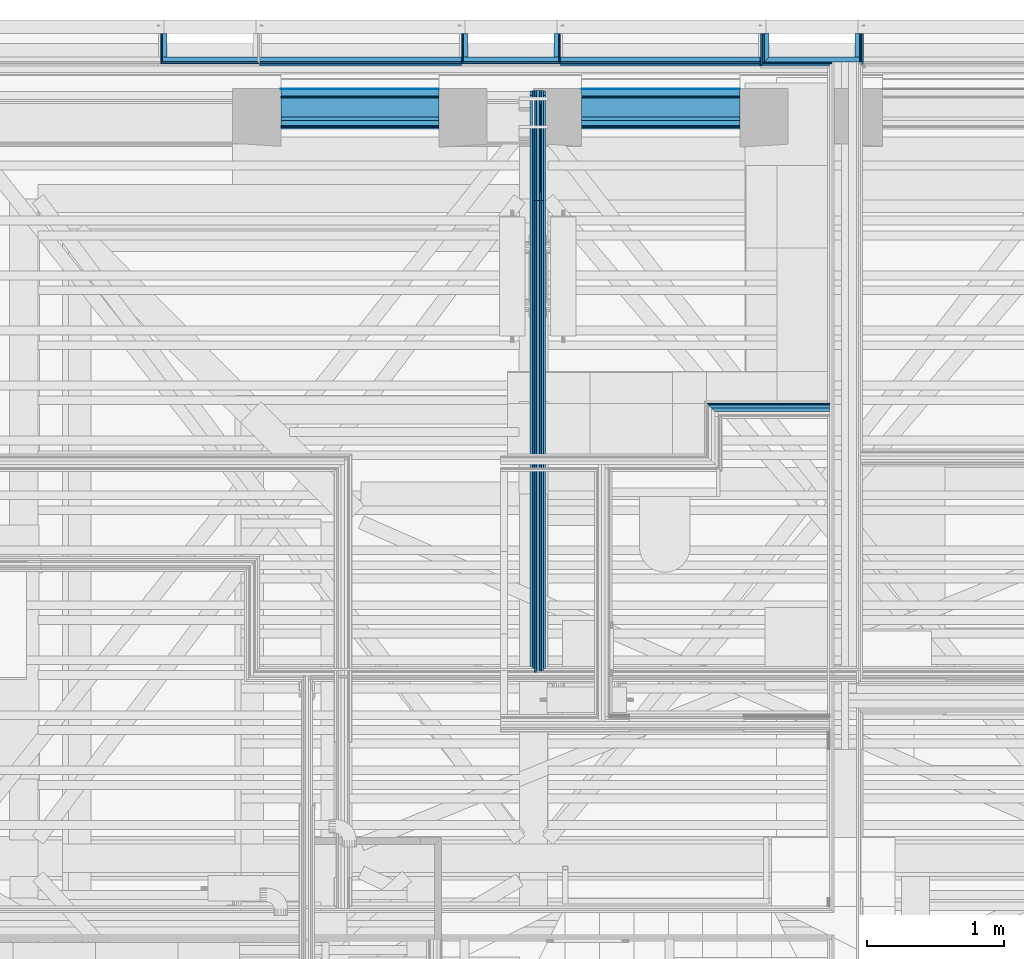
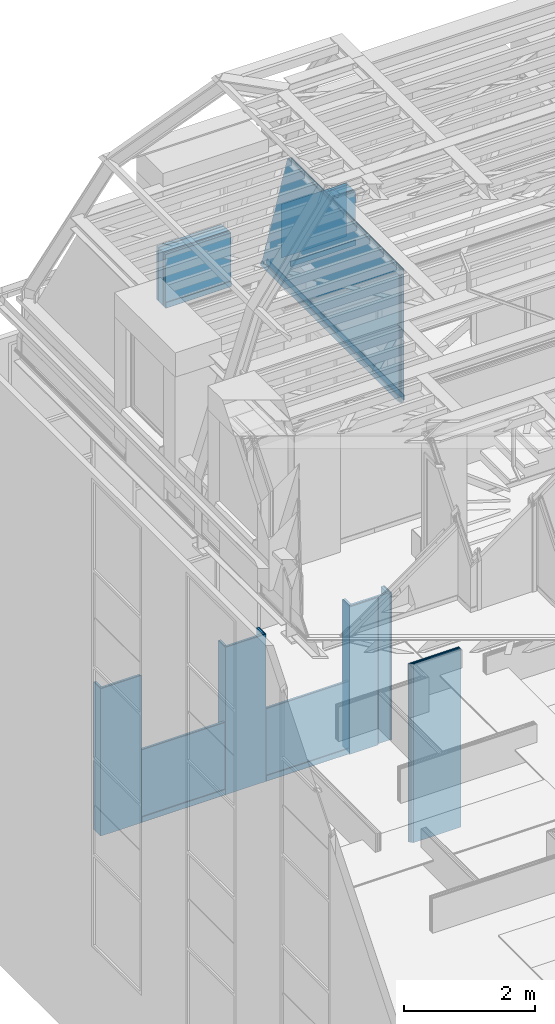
# One storey, part 40 of 183: 51 building element parts, 14 elements without a shape of their own.
"""IFC2X3 building model written with IfcOpenShell, lengths in metres."""

from ifc_helpers import new_model, entity, si_unit, converted_unit, derived_unit, money_unit, direction, frame, frame_2d, origin_with_axes, place, context, subcontext, project, spatial, polyline, rectangle, outline, extrude, clip, halfspace, material, type_object, element, aggregate, save


model = new_model("IFC2X3")

# Units and contexts
model_context = context("Model", 3, precision=1e-05, world=origin_with_axes(), true_north=direction((0.0, 1.0)))
body_context = subcontext(model_context, "Body", "Model", "MODEL_VIEW", scale=1.0)
ifc_project = project(units=[si_unit("LENGTHUNIT", "METRE"), si_unit("AREAUNIT", "SQUARE_METRE"), si_unit("VOLUMEUNIT", "CUBIC_METRE"), si_unit("ABSORBEDDOSEUNIT", "GRAY"), si_unit("AMOUNTOFSUBSTANCEUNIT", "MOLE"), si_unit("DOSEEQUIVALENTUNIT", "SIEVERT"), si_unit("ELECTRICCAPACITANCEUNIT", "FARAD"), si_unit("ELECTRICCHARGEUNIT", "COULOMB"), si_unit("ELECTRICCONDUCTANCEUNIT", "SIEMENS"), si_unit("ELECTRICCURRENTUNIT", "AMPERE"), si_unit("ELECTRICRESISTANCEUNIT", "OHM"), si_unit("ELECTRICVOLTAGEUNIT", "VOLT"), si_unit("ENERGYUNIT", "JOULE"), si_unit("FORCEUNIT", "NEWTON"), si_unit("FREQUENCYUNIT", "HERTZ"), si_unit("ILLUMINANCEUNIT", "LUX"), si_unit("INDUCTANCEUNIT", "HENRY"), si_unit("LUMINOUSFLUXUNIT", "LUMEN"), si_unit("LUMINOUSINTENSITYUNIT", "CANDELA"), si_unit("MAGNETICFLUXDENSITYUNIT", "TESLA"), si_unit("MAGNETICFLUXUNIT", "WEBER"), si_unit("MASSUNIT", "GRAM"), converted_unit("PLANEANGLEUNIT", "degree", entity("IfcReal", 0.0174532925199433), si_unit("PLANEANGLEUNIT", "RADIAN"), dimensions=[0, 0, 0, 0, 0, 0, 0]), si_unit("POWERUNIT", "WATT"), si_unit("PRESSUREUNIT", "PASCAL"), si_unit("RADIOACTIVITYUNIT", "BECQUEREL"), si_unit("SOLIDANGLEUNIT", "STERADIAN"), si_unit("THERMODYNAMICTEMPERATUREUNIT", "KELVIN"), si_unit("TIMEUNIT", "SECOND"), derived_unit("ACCELERATIONUNIT", [(si_unit("LENGTHUNIT", "METRE"), 1), (si_unit("TIMEUNIT", "SECOND"), -2)]), derived_unit("ANGULARVELOCITYUNIT", [(converted_unit("PLANEANGLEUNIT", "degree", entity("IfcReal", 0.0174532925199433), si_unit("PLANEANGLEUNIT", "RADIAN"), dimensions=[0, 0, 0, 0, 0, 0, 0]), 1), (si_unit("TIMEUNIT", "SECOND"), -1)]), derived_unit("CURVATUREUNIT", [(converted_unit("PLANEANGLEUNIT", "degree", entity("IfcReal", 0.0174532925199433), si_unit("PLANEANGLEUNIT", "RADIAN"), dimensions=[0, 0, 0, 0, 0, 0, 0]), 1), (si_unit("LENGTHUNIT", "METRE"), -1)]), derived_unit("DYNAMICVISCOSITYUNIT", [(si_unit("PRESSUREUNIT", "PASCAL"), 1), (si_unit("TIMEUNIT", "SECOND"), 1)]), derived_unit("HEATFLUXDENSITYUNIT", [(si_unit("POWERUNIT", "WATT"), 1), (si_unit("LENGTHUNIT", "METRE"), -2)]), derived_unit("HEATINGVALUEUNIT", [(si_unit("ENERGYUNIT", "JOULE"), 1), (si_unit("MASSUNIT", "GRAM"), -1)]), derived_unit("INTEGERCOUNTRATEUNIT", [(si_unit("TIMEUNIT", "SECOND"), -1)]), derived_unit("IONCONCENTRATIONUNIT", [(si_unit("MASSUNIT", "GRAM"), 1), (si_unit("VOLUMEUNIT", "CUBIC_METRE"), -1)]), derived_unit("ISOTHERMALMOISTURECAPACITYUNIT", [(si_unit("VOLUMEUNIT", "CUBIC_METRE"), 1), (si_unit("MASSUNIT", "GRAM"), -1)]), derived_unit("KINEMATICVISCOSITYUNIT", [(si_unit("AREAUNIT", "SQUARE_METRE"), 1), (si_unit("TIMEUNIT", "SECOND"), -1)]), derived_unit("LINEARFORCEUNIT", [(si_unit("FORCEUNIT", "NEWTON"), 1), (si_unit("LENGTHUNIT", "METRE"), -1)]), derived_unit("LINEARMOMENTUNIT", [(si_unit("FORCEUNIT", "NEWTON"), 1), (si_unit("LENGTHUNIT", "METRE"), -1)]), derived_unit("LINEARSTIFFNESSUNIT", [(si_unit("FORCEUNIT", "NEWTON"), 1), (si_unit("LENGTHUNIT", "METRE"), -1)]), derived_unit("LINEARVELOCITYUNIT", [(si_unit("LENGTHUNIT", "METRE"), 1), (si_unit("TIMEUNIT", "SECOND"), -1)]), derived_unit("LUMINOUSINTENSITYDISTRIBUTIONUNIT", [(si_unit("LUMINOUSINTENSITYUNIT", "CANDELA"), 1), (si_unit("LUMINOUSFLUXUNIT", "LUMEN"), -1)]), derived_unit("MASSDENSITYUNIT", [(si_unit("MASSUNIT", "GRAM"), 1), (si_unit("VOLUMEUNIT", "CUBIC_METRE"), -1)]), derived_unit("MASSFLOWRATEUNIT", [(si_unit("MASSUNIT", "GRAM"), 1), (si_unit("TIMEUNIT", "SECOND"), -1)]), derived_unit("MASSPERLENGTHUNIT", [(si_unit("MASSUNIT", "GRAM"), 1), (si_unit("LENGTHUNIT", "METRE"), -1)]), derived_unit("MODULUSOFELASTICITYUNIT", [(si_unit("FORCEUNIT", "NEWTON"), 1), (si_unit("AREAUNIT", "SQUARE_METRE"), -1)]), derived_unit("MODULUSOFLINEARSUBGRADEREACTIONUNIT", [(si_unit("FORCEUNIT", "NEWTON"), 1), (si_unit("LENGTHUNIT", "METRE"), -2)]), derived_unit("MODULUSOFROTATIONALSUBGRADEREACTIONUNIT", [(si_unit("FORCEUNIT", "NEWTON"), 1), (si_unit("LENGTHUNIT", "METRE"), 1)]), derived_unit("MODULUSOFSUBGRADEREACTIONUNIT", [(si_unit("FORCEUNIT", "NEWTON"), 1), (si_unit("VOLUMEUNIT", "CUBIC_METRE"), -1)]), derived_unit("MOISTUREDIFFUSIVITYUNIT", [(si_unit("VOLUMEUNIT", "CUBIC_METRE"), 1), (si_unit("TIMEUNIT", "SECOND"), -1)]), derived_unit("MOLECULARWEIGHTUNIT", [(si_unit("MASSUNIT", "GRAM"), 1), (si_unit("AMOUNTOFSUBSTANCEUNIT", "MOLE"), -1)]), derived_unit("PLANARFORCEUNIT", [(si_unit("FORCEUNIT", "NEWTON"), 1), (si_unit("LENGTHUNIT", "METRE"), -2)]), derived_unit("ROTATIONALFREQUENCYUNIT", [(si_unit("TIMEUNIT", "SECOND"), -1)]), derived_unit("ROTATIONALMASSUNIT", [(si_unit("MASSUNIT", "GRAM"), 1), (si_unit("LENGTHUNIT", "METRE"), 2)]), derived_unit("ROTATIONALSTIFFNESSUNIT", [(si_unit("FORCEUNIT", "NEWTON"), 1), (si_unit("LENGTHUNIT", "METRE"), 1), (converted_unit("PLANEANGLEUNIT", "degree", entity("IfcReal", 0.0174532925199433), si_unit("PLANEANGLEUNIT", "RADIAN"), dimensions=[0, 0, 0, 0, 0, 0, 0]), -1)]), derived_unit("SECTIONAREAINTEGRALUNIT", [(si_unit("LENGTHUNIT", "METRE"), 5)]), derived_unit("SECTIONMODULUSUNIT", [(si_unit("LENGTHUNIT", "METRE"), 3)]), derived_unit("SHEARMODULUSUNIT", [(si_unit("FORCEUNIT", "NEWTON"), 1), (si_unit("AREAUNIT", "SQUARE_METRE"), -1)]), derived_unit("SOUNDPOWERUNIT", [(si_unit("ENERGYUNIT", "JOULE"), 1), (si_unit("TIMEUNIT", "SECOND"), -1)]), derived_unit("SPECIFICHEATCAPACITYUNIT", [(si_unit("FORCEUNIT", "NEWTON"), 1), (si_unit("MASSUNIT", "GRAM"), -1), (si_unit("THERMODYNAMICTEMPERATUREUNIT", "KELVIN"), -1)]), derived_unit("TEMPERATUREGRADIENTUNIT", [(si_unit("THERMODYNAMICTEMPERATUREUNIT", "KELVIN"), 1), (si_unit("LENGTHUNIT", "METRE"), -1)]), derived_unit("THERMALADMITTANCEUNIT", [(si_unit("POWERUNIT", "WATT"), 1), (si_unit("AREAUNIT", "SQUARE_METRE"), -1), (si_unit("THERMODYNAMICTEMPERATUREUNIT", "KELVIN"), -1)]), derived_unit("THERMALCONDUCTANCEUNIT", [(si_unit("POWERUNIT", "WATT"), 1), (si_unit("LENGTHUNIT", "METRE"), -1), (si_unit("THERMODYNAMICTEMPERATUREUNIT", "KELVIN"), -1)]), derived_unit("THERMALEXPANSIONCOEFFICIENTUNIT", [(si_unit("THERMODYNAMICTEMPERATUREUNIT", "KELVIN"), -1)]), derived_unit("THERMALRESISTANCEUNIT", [(si_unit("AREAUNIT", "SQUARE_METRE"), 1), (si_unit("POWERUNIT", "WATT"), -1)]), derived_unit("THERMALTRANSMITTANCEUNIT", [(si_unit("POWERUNIT", "WATT"), 1), (si_unit("AREAUNIT", "SQUARE_METRE"), -1), (si_unit("THERMODYNAMICTEMPERATUREUNIT", "KELVIN"), -1)]), derived_unit("TORQUEUNIT", [(si_unit("FORCEUNIT", "NEWTON"), 1), (si_unit("LENGTHUNIT", "METRE"), 1)]), derived_unit("VAPORPERMEABILITYUNIT", [(si_unit("MASSUNIT", "GRAM"), 1), (si_unit("TIMEUNIT", "SECOND"), -1)]), derived_unit("VOLUMETRICFLOWRATEUNIT", [(si_unit("VOLUMEUNIT", "CUBIC_METRE"), 1), (si_unit("TIMEUNIT", "SECOND"), -1)]), derived_unit("WARPINGCONSTANTUNIT", [(si_unit("LENGTHUNIT", "METRE"), 6)]), derived_unit("WARPINGMOMENTUNIT", [(si_unit("FORCEUNIT", "NEWTON"), 1), (si_unit("LENGTHUNIT", "METRE"), 2)]), money_unit("GBP")], contexts=[model_context])

# Site, building, storey
site_placement = place(None, origin_with_axes())
site = spatial("IfcSite", under=ifc_project, at=site_placement, Name="Site", CompositionType="ELEMENT")
building_placement = place(site_placement, origin_with_axes())
building = spatial("IfcBuilding", under=site, at=building_placement, Name="Building01", CompositionType="ELEMENT")
storey_placement = place(building_placement, frame((0.0, 0.0, 5.15), z_axis=(0.0, 0.0, 1.0), x_axis=(1.0, 0.0, 0.0)))
storey = spatial("IfcBuildingStorey", under=building, at=storey_placement, Name="1F", CompositionType="ELEMENT", Elevation=5.15)

# Wall, building element parts
wall_type_1 = type_object("IfcWallType", Name="SHE_A-Walls_Type05a_Partition_95mm_tall", PredefinedType="NOTDEFINED")
wall_1_placement = place(storey_placement, frame((6.229669, 12.05067, 0.0), z_axis=(0.0, 0.0, 1.0), x_axis=(1.0, 0.0, 0.0)))
wall_1 = element("IfcWall", 1, at=wall_1_placement, inside=storey, type_object=wall_type_1, Name="5A", ObjectType="SHE_A-Walls_Type05a_Partition_95mm_tall")
ifc_material_1 = material(Name="A_BSUK_Insulation")
placement_1 = place(wall_1_placement, origin_with_axes())
building_element_part_1 = element("IfcBuildingElementPart", 2, at=placement_1, material=ifc_material_1, Name="4", context=body_context, shape_type="SweptSolid", body=[
    extrude(outline(polyline([(0.835, 0.025), (-0.025, 0.025), (0.0, 0.0), (0.835, 0.0), (0.835, 0.025)])), origin_with_axes(), (0.0, 0.0, 1.0), 3.32),
])
ifc_material_2 = material(Name="Air Cavity")
building_element_part_2 = element("IfcBuildingElementPart", 3, at=placement_1, material=ifc_material_2, Name="5", context=body_context, shape_type="SweptSolid", body=[
    extrude(outline(polyline([(0.835, 0.048), (-0.048, 0.048), (-0.025, 0.025), (0.835, 0.025), (0.835, 0.048)])), origin_with_axes(), (0.0, 0.0, 1.0), 3.32),
])
ifc_material_3 = material(Name="A_BSUK_WallInternal_Finishes_Plasterboard")
building_element_part_3 = element("IfcBuildingElementPart", 4, at=placement_1, material=ifc_material_3, Name="6", context=body_context, shape_type="SweptSolid", body=[
    extrude(outline(polyline([(0.835, 0.06), (-0.06, 0.06), (-0.048, 0.048), (0.835, 0.048), (0.835, 0.06)])), origin_with_axes(), (0.0, 0.0, 1.0), 3.32),
])
aggregate(wall_1, [building_element_part_1, building_element_part_2, building_element_part_3])

wall_type_2 = type_object("IfcWallType", Name="SHE_A-Walls_Type06f_ExternalWallInsulation_48+15mm", PredefinedType="NOTDEFINED")
wall_2_placement = place(storey_placement, frame((7.265, 14.8, 0.0), z_axis=(0.0, 0.0, 1.0), x_axis=(0.0, -1.0, 0.0)))
wall_2 = element("IfcWall", 5, at=wall_2_placement, inside=storey, type_object=wall_type_2, Name="6F", ObjectType="SHE_A-Walls_Type06f_ExternalWallInsulation_48+15mm")
placement_2 = place(wall_2_placement, origin_with_axes())
building_element_part_4 = element("IfcBuildingElementPart", 6, at=placement_2, material=ifc_material_1, Name="1", context=body_context, shape_type="SweptSolid", body=[
    extrude(rectangle(XDim=0.17, YDim=0.036, at=frame_2d((0.085, 0.0), x_axis=(-1.0, 0.0))), origin_with_axes(), (0.0, 0.0, 1.0), 2.74),
])
building_element_part_5 = element("IfcBuildingElementPart", 7, at=placement_2, material=ifc_material_3, Name="2", context=body_context, shape_type="SweptSolid", body=[
    extrude(rectangle(XDim=0.206, YDim=0.012, at=frame_2d((0.103, 0.024), x_axis=(-1.0, 0.0))), origin_with_axes(), (0.0, 0.0, 1.0), 2.74),
])
building_element_part_6 = element("IfcBuildingElementPart", 8, at=placement_2, material=ifc_material_3, Name="3", context=body_context, shape_type="SweptSolid", body=[
    extrude(outline(polyline([(0.233, 0.045), (0.0, 0.045), (0.0, 0.03), (0.218, 0.03), (0.233, 0.045)])), origin_with_axes(), (0.0, 0.0, 1.0), 2.74),
])
aggregate(wall_2, [building_element_part_4, building_element_part_5, building_element_part_6])

wall_3_placement = place(storey_placement, frame((6.605, 14.612, 0.0), z_axis=(0.0, 0.0, 1.0), x_axis=(0.0, 1.0, 0.0)))
wall_3 = element("IfcWall", 9, at=wall_3_placement, inside=storey, type_object=wall_type_2, Name="6F", ObjectType="SHE_A-Walls_Type06f_ExternalWallInsulation_48+15mm")
placement_3 = place(wall_3_placement, origin_with_axes())
building_element_part_7 = element("IfcBuildingElementPart", 10, at=placement_3, material=ifc_material_1, Name="1", context=body_context, shape_type="SweptSolid", body=[
    extrude(outline(polyline([(-0.018, 0.018), (0.018, -0.018), (0.188, -0.018), (0.188, 0.018), (-0.018, 0.018)])), origin_with_axes(), (0.0, 0.0, 1.0), 2.74),
])
building_element_part_8 = element("IfcBuildingElementPart", 11, at=placement_3, material=ifc_material_3, Name="2", context=body_context, shape_type="SweptSolid", body=[
    extrude(outline(polyline([(-0.03, 0.03), (-0.018, 0.018), (0.188, 0.018), (0.188, 0.03), (-0.03, 0.03)])), origin_with_axes(), (0.0, 0.0, 1.0), 2.74),
])
building_element_part_9 = element("IfcBuildingElementPart", 12, at=placement_3, material=ifc_material_3, Name="3", context=body_context, shape_type="SweptSolid", body=[
    extrude(outline(polyline([(-0.045, 0.045), (-0.03, 0.03), (0.188, 0.03), (0.188, 0.045), (-0.045, 0.045)])), origin_with_axes(), (0.0, 0.0, 1.0), 2.74),
])
aggregate(wall_3, [building_element_part_7, building_element_part_8, building_element_part_9])

wall_4_placement = place(storey_placement, frame((7.283, 14.612, 0.0), z_axis=(0.0, 0.0, 1.0), x_axis=(-1.0, 0.0, 0.0)))
wall_4 = element("IfcWall", 13, at=wall_4_placement, inside=storey, type_object=wall_type_2, Name="6F", ObjectType="SHE_A-Walls_Type06f_ExternalWallInsulation_48+15mm")
placement_4 = place(wall_4_placement, origin_with_axes())
building_element_part_10 = element("IfcBuildingElementPart", 14, at=placement_4, material=ifc_material_1, Name="1", context=body_context, shape_type="SweptSolid", body=[
    extrude(outline(polyline([(0.696, 0.018), (0.0, 0.018), (0.0, -0.018), (0.66, -0.018), (0.696, 0.018)])), origin_with_axes(), (0.0, 0.0, 1.0), 2.74),
])
building_element_part_11 = element("IfcBuildingElementPart", 15, at=placement_4, material=ifc_material_3, Name="2", context=body_context, shape_type="SweptSolid", body=[
    extrude(outline(polyline([(0.708, 0.03), (0.203331, 0.03), (0.203331, 0.018), (0.696, 0.018), (0.708, 0.03)])), origin_with_axes(), (0.0, 0.0, 1.0), 2.74),
])
building_element_part_12 = element("IfcBuildingElementPart", 16, at=placement_4, material=ifc_material_3, Name="5", context=body_context, shape_type="SweptSolid", body=[
    extrude(outline(polyline([(0.723, 0.045), (0.218331, 0.045), (0.218331, 0.03), (0.708, 0.03), (0.723, 0.045)])), origin_with_axes(), (0.0, 0.0, 1.0), 2.74),
])
aggregate(wall_4, [building_element_part_10, building_element_part_11, building_element_part_12])

wall_type_3 = type_object("IfcWallType", Name="SHE_A-Walls_Type06d_ExternalWallInsulation_48mm", PredefinedType="NOTDEFINED")
wall_5_placement = place(storey_placement, frame((6.559876, 14.594, 0.0), z_axis=(0.0, 0.0, 1.0), x_axis=(-1.0, 0.0, 0.0)))
wall_5 = element("IfcWall", 17, at=wall_5_placement, inside=storey, type_object=wall_type_3, Name="6D", ObjectType="SHE_A-Walls_Type06d_ExternalWallInsulation_48mm")
placement_5 = place(wall_5_placement, origin_with_axes())
building_element_part_13 = element("IfcBuildingElementPart", 18, at=placement_5, material=ifc_material_1, Name="1", context=body_context, shape_type="SweptSolid", body=[
    extrude(rectangle(XDim=1.454876, YDim=0.036, at=frame_2d((0.727438, -0.018), x_axis=(-1.0, 0.0))), origin_with_axes(), (0.0, 0.0, 1.0), 1.35),
])
building_element_part_14 = element("IfcBuildingElementPart", 19, at=placement_5, material=ifc_material_3, Name="2", context=body_context, shape_type="SweptSolid", body=[
    extrude(rectangle(XDim=1.454876, YDim=0.013, at=frame_2d((0.727438, 0.0055), x_axis=(-1.0, 0.0))), origin_with_axes(), (0.0, 0.0, 1.0), 1.35),
])
ifc_material_4 = material(Name="A_BSUK_Walls_Timber")
building_element_part_15 = element("IfcBuildingElementPart", 20, at=placement_5, material=ifc_material_4, Name="3", context=body_context, shape_type="SweptSolid", body=[
    extrude(rectangle(XDim=1.454876, YDim=0.015, at=frame_2d((0.727438, 0.0195), x_axis=(-1.0, 0.0))), frame((0.0, 0.0, 0.015), z_axis=(0.0, 0.0, 1.0), x_axis=(1.0, 0.0, 0.0)), (0.0, 0.0, 1.0), 0.1),
])
aggregate(wall_5, [building_element_part_13, building_element_part_14, building_element_part_15])

wall_6_placement = place(storey_placement, frame((5.093, 14.63, 0.0), z_axis=(0.0, 0.0, 1.0), x_axis=(0.0, 1.0, 0.0)))
wall_6 = element("IfcWall", 21, at=wall_6_placement, inside=storey, type_object=wall_type_3, Name="6D", ObjectType="SHE_A-Walls_Type06d_ExternalWallInsulation_48mm")
placement_6 = place(wall_6_placement, origin_with_axes())
building_element_part_16 = element("IfcBuildingElementPart", 22, at=placement_6, material=ifc_material_3, Name="2", context=body_context, shape_type="SweptSolid", body=[
    extrude(outline(polyline([(-0.035, 0.001), (-0.048, -0.012), (0.17, -0.012), (0.17, 0.001), (-0.035, 0.001)])), origin_with_axes(), (0.0, 0.0, 1.0), 2.74),
])
building_element_part_17 = element("IfcBuildingElementPart", 23, at=placement_6, material=ifc_material_1, Name="3", context=body_context, shape_type="SweptSolid", body=[
    extrude(rectangle(XDim=0.036, YDim=0.17, at=frame_2d((0.085, 0.018), x_axis=(0.0, -1.0))), origin_with_axes(), (0.0, 0.0, 1.0), 2.74),
])
aggregate(wall_6, [building_element_part_16, building_element_part_17])

wall_7_placement = place(storey_placement, frame((5.093, 14.63, 0.0), z_axis=(0.0, 0.0, 1.0), x_axis=(-1.0, 0.0, 0.0)))
wall_7 = element("IfcWall", 24, at=wall_7_placement, inside=storey, type_object=wall_type_3, Name="6D", ObjectType="SHE_A-Walls_Type06d_ExternalWallInsulation_48mm")
placement_7 = place(wall_7_placement, origin_with_axes())
building_element_part_18 = element("IfcBuildingElementPart", 25, at=placement_7, material=ifc_material_1, Name="1", context=body_context, shape_type="SweptSolid", body=[
    extrude(rectangle(XDim=0.696, YDim=0.036, at=frame_2d((0.348, 0.018), x_axis=(-1.0, 0.0))), origin_with_axes(), (0.0, 0.0, 1.0), 2.74),
])
building_element_part_19 = element("IfcBuildingElementPart", 26, at=placement_7, material=ifc_material_3, Name="2", context=body_context, shape_type="SweptSolid", body=[
    extrude(outline(polyline([(0.708, 0.048), (-0.012, 0.048), (0.001, 0.035), (0.695, 0.035), (0.708, 0.048)])), origin_with_axes(), (0.0, 0.0, 1.0), 2.74),
])
aggregate(wall_7, [building_element_part_18, building_element_part_19])

wall_8_placement = place(storey_placement, frame((4.397, 14.63, 0.0), z_axis=(0.0, 0.0, 1.0), x_axis=(0.0, 1.0, 0.0)))
wall_8 = element("IfcWall", 27, at=wall_8_placement, inside=storey, type_object=wall_type_3, Name="6D", ObjectType="SHE_A-Walls_Type06d_ExternalWallInsulation_48mm")
placement_8 = place(wall_8_placement, origin_with_axes())
building_element_part_20 = element("IfcBuildingElementPart", 28, at=placement_8, material=ifc_material_1, Name="1", context=body_context, shape_type="SweptSolid", body=[
    extrude(rectangle(XDim=0.036, YDim=0.17, at=frame_2d((0.085, -0.018), x_axis=(0.0, -1.0))), origin_with_axes(), (0.0, 0.0, 1.0), 2.74),
])
building_element_part_21 = element("IfcBuildingElementPart", 29, at=placement_8, material=ifc_material_3, Name="2", context=body_context, shape_type="SweptSolid", body=[
    extrude(outline(polyline([(-0.048, 0.012), (-0.035, -0.001), (0.17, -0.001), (0.17, 0.012), (-0.048, 0.012)])), origin_with_axes(), (0.0, 0.0, 1.0), 2.74),
])
aggregate(wall_8, [building_element_part_20, building_element_part_21])

wall_9_placement = place(storey_placement, frame((4.385, 14.594, 0.0), z_axis=(0.0, 0.0, 1.0), x_axis=(-1.0, 0.0, 0.0)))
wall_9 = element("IfcWall", 30, at=wall_9_placement, inside=storey, type_object=wall_type_3, Name="6D", ObjectType="SHE_A-Walls_Type06d_ExternalWallInsulation_48mm")
placement_9 = place(wall_9_placement, origin_with_axes())
building_element_part_22 = element("IfcBuildingElementPart", 31, at=placement_9, material=ifc_material_1, Name="1", context=body_context, shape_type="SweptSolid", body=[
    extrude(rectangle(XDim=1.47, YDim=0.036, at=frame_2d((0.735, -0.018), x_axis=(-1.0, 0.0))), origin_with_axes(), (0.0, 0.0, 1.0), 1.35),
])
building_element_part_23 = element("IfcBuildingElementPart", 32, at=placement_9, material=ifc_material_3, Name="2", context=body_context, shape_type="SweptSolid", body=[
    extrude(rectangle(XDim=1.47, YDim=0.013, at=frame_2d((0.735, 0.0055), x_axis=(-1.0, 0.0))), origin_with_axes(), (0.0, 0.0, 1.0), 1.35),
])
building_element_part_24 = element("IfcBuildingElementPart", 33, at=placement_9, material=ifc_material_4, Name="3", context=body_context, shape_type="SweptSolid", body=[
    extrude(rectangle(XDim=1.47, YDim=0.015, at=frame_2d((0.735, 0.0195), x_axis=(-1.0, 0.0))), frame((0.0, 0.0, 0.015), z_axis=(0.0, 0.0, 1.0), x_axis=(1.0, 0.0, 0.0)), (0.0, 0.0, 1.0), 0.1),
])
aggregate(wall_9, [building_element_part_22, building_element_part_23, building_element_part_24])

wall_10_placement = place(storey_placement, frame((2.903, 14.63, 0.0), z_axis=(0.0, 0.0, 1.0), x_axis=(-1.0, 0.0, 0.0)))
wall_10 = element("IfcWall", 34, at=wall_10_placement, inside=storey, type_object=wall_type_3, Name="6D", ObjectType="SHE_A-Walls_Type06d_ExternalWallInsulation_48mm")
placement_10 = place(wall_10_placement, origin_with_axes())
building_element_part_25 = element("IfcBuildingElementPart", 35, at=placement_10, material=ifc_material_1, Name="1", context=body_context, shape_type="SweptSolid", body=[
    extrude(rectangle(XDim=0.696, YDim=0.036, at=frame_2d((0.348, 0.018), x_axis=(-1.0, 0.0))), origin_with_axes(), (0.0, 0.0, 1.0), 2.74),
])
building_element_part_26 = element("IfcBuildingElementPart", 36, at=placement_10, material=ifc_material_3, Name="2", context=body_context, shape_type="SweptSolid", body=[
    extrude(outline(polyline([(0.708, 0.048), (-0.012, 0.048), (0.001, 0.035), (0.695, 0.035), (0.708, 0.048)])), origin_with_axes(), (0.0, 0.0, 1.0), 2.74),
])
aggregate(wall_10, [building_element_part_25, building_element_part_26])

wall_11_placement = place(storey_placement, frame((2.207, 14.63, 0.0), z_axis=(0.0, 0.0, 1.0), x_axis=(0.0, 1.0, 0.0)))
wall_11 = element("IfcWall", 37, at=wall_11_placement, inside=storey, type_object=wall_type_3, Name="6D", ObjectType="SHE_A-Walls_Type06d_ExternalWallInsulation_48mm")
placement_11 = place(wall_11_placement, origin_with_axes())
building_element_part_27 = element("IfcBuildingElementPart", 38, at=placement_11, material=ifc_material_1, Name="1", context=body_context, shape_type="SweptSolid", body=[
    extrude(rectangle(XDim=0.036, YDim=0.17, at=frame_2d((0.085, -0.018), x_axis=(0.0, -1.0))), origin_with_axes(), (0.0, 0.0, 1.0), 2.74),
])
building_element_part_28 = element("IfcBuildingElementPart", 39, at=placement_11, material=ifc_material_3, Name="2", context=body_context, shape_type="SweptSolid", body=[
    extrude(outline(polyline([(-0.048, 0.012), (-0.035, -0.001), (0.17, -0.001), (0.17, 0.012), (-0.048, 0.012)])), origin_with_axes(), (0.0, 0.0, 1.0), 2.74),
])
aggregate(wall_11, [building_element_part_27, building_element_part_28])

wall_type_4 = type_object("IfcWallType", Name="SHE_A-Walls_Type05b_Partition_80mm", PredefinedType="NOTDEFINED")
wall_12_placement = place(storey_placement, frame((4.953024, 10.151939, 9.78), z_axis=(0.0, 0.0, 1.0), x_axis=(0.0, 1.0, 0.0)))
wall_12 = element("IfcWall", 40, at=wall_12_placement, inside=storey, type_object=wall_type_4, Name="5B", ObjectType="SHE_A-Walls_Type05b_Partition_80mm")
placement_12 = place(wall_12_placement, origin_with_axes())
building_element_part_29 = element("IfcBuildingElementPart", 41, at=placement_12, material=ifc_material_4, Name="1", context=body_context, shape_type="Clipping", body=[
    clip(extrude(rectangle(XDim=4.201845, YDim=0.015, at=frame_2d((2.128922, -0.0345), x_axis=(-1.0, 0.0))), frame((0.0, 0.0, 0.015), z_axis=(0.0, 0.0, 1.0), x_axis=(1.0, 0.0, 0.0)), (0.0, 0.0, 1.0), 0.1), halfspace(frame((3.830339, 0.0, 1.244553), z_axis=(-0.95105652, 0.0, -0.30901699), x_axis=(0.0, -1.0, 0.0)), True)),
])
building_element_part_30 = element("IfcBuildingElementPart", 42, at=placement_12, material=ifc_material_3, Name="2", context=body_context, shape_type="Clipping", body=[
    clip(extrude(rectangle(XDim=4.221719, YDim=0.015, at=frame_2d((2.123859, -0.0195), x_axis=(-1.0, 0.0))), origin_with_axes(), (0.0, 0.0, 1.0), 2.468), halfspace(frame((3.830339, 0.0, 1.244553), z_axis=(-0.95105652, 0.0, -0.30901699), x_axis=(0.0, -1.0, 0.0)), True)),
])
building_element_part_31 = element("IfcBuildingElementPart", 43, at=placement_12, material=ifc_material_2, Name="3", context=body_context, shape_type="Clipping", body=[
    clip(extrude(rectangle(XDim=4.221719, YDim=0.012, at=frame_2d((2.123859, -0.006), x_axis=(-1.0, 0.0))), origin_with_axes(), (0.0, 0.0, 1.0), 2.468), halfspace(frame((3.830339, 0.0, 1.244553), z_axis=(-0.95105652, 0.0, -0.30901699), x_axis=(0.0, -1.0, 0.0)), True)),
])
building_element_part_32 = element("IfcBuildingElementPart", 44, at=placement_12, material=ifc_material_1, Name="4", context=body_context, shape_type="Clipping", body=[
    clip(extrude(rectangle(XDim=4.234719, YDim=0.025, at=frame_2d((2.117359, 0.0125), x_axis=(-1.0, 0.0))), origin_with_axes(), (0.0, 0.0, 1.0), 2.468), halfspace(frame((3.830339, 0.0, 1.244553), z_axis=(-0.95105652, 0.0, -0.30901699), x_axis=(0.0, -1.0, 0.0)), True)),
])
building_element_part_33 = element("IfcBuildingElementPart", 45, at=placement_12, material=ifc_material_2, Name="5", context=body_context, shape_type="Clipping", body=[
    clip(extrude(rectangle(XDim=4.234719, YDim=0.013, at=frame_2d((2.117359, 0.0315), x_axis=(-1.0, 0.0))), origin_with_axes(), (0.0, 0.0, 1.0), 2.468), halfspace(frame((3.830339, 0.0, 1.244553), z_axis=(-0.95105652, 0.0, -0.30901699), x_axis=(0.0, -1.0, 0.0)), True)),
])
building_element_part_34 = element("IfcBuildingElementPart", 46, at=placement_12, material=ifc_material_3, Name="6", context=body_context, shape_type="Clipping", body=[
    clip(extrude(rectangle(XDim=4.206719, YDim=0.015, at=frame_2d((2.131359, 0.0455), x_axis=(-1.0, 0.0))), origin_with_axes(), (0.0, 0.0, 1.0), 2.468), halfspace(frame((3.830339, 0.0, 1.244553), z_axis=(-0.95105652, 0.0, -0.30901699), x_axis=(0.0, -1.0, 0.0)), True)),
])
building_element_part_35 = element("IfcBuildingElementPart", 47, at=placement_12, material=ifc_material_4, Name="7", context=body_context, shape_type="Clipping", body=[
    clip(extrude(rectangle(XDim=4.186845, YDim=0.015, at=frame_2d((2.136422, 0.0605), x_axis=(-1.0, 0.0))), frame((0.0, 0.0, 0.015), z_axis=(0.0, 0.0, 1.0), x_axis=(1.0, 0.0, 0.0)), (0.0, 0.0, 1.0), 0.1), halfspace(frame((3.830339, 0.0, 1.244553), z_axis=(-0.95105652, 0.0, -0.30901699), x_axis=(0.0, -1.0, 0.0)), True)),
])
aggregate(wall_12, [building_element_part_29, building_element_part_30, building_element_part_31, building_element_part_32, building_element_part_33, building_element_part_34, building_element_part_35])

wall_type_5 = type_object("IfcWallType", Name="SHE_A-Walls_Type06e_ExternalWallPenthouse_280mm", PredefinedType="NOTDEFINED")
wall_13_placement = place(storey_placement, frame((5.260024, 14.335061, 9.78), z_axis=(0.0, 0.0, 1.0), x_axis=(1.0, 0.0, 0.0)))
wall_13 = element("IfcWall", 48, at=wall_13_placement, inside=storey, type_object=wall_type_5, Name="6E", ObjectType="SHE_A-Walls_Type06e_ExternalWallPenthouse_280mm")
placement_13 = place(wall_13_placement, origin_with_axes())
building_element_part_36 = element("IfcBuildingElementPart", 49, at=placement_13, material=ifc_material_4, Name="1", context=body_context, shape_type="SweptSolid", body=[
    extrude(rectangle(XDim=1.149951, YDim=0.015, at=frame_2d((0.574976, -0.2225), x_axis=(-1.0, 0.0))), frame((0.0, 0.0, 0.015), z_axis=(0.0, 0.0, 1.0), x_axis=(1.0, 0.0, 0.0)), (0.0, 0.0, 1.0), 0.1),
])
building_element_part_37 = element("IfcBuildingElementPart", 50, at=placement_13, material=ifc_material_3, Name="2", context=body_context, shape_type="SweptSolid", body=[
    extrude(rectangle(XDim=1.149951, YDim=0.01, at=frame_2d((0.574976, -0.21), x_axis=(-1.0, 0.0))), origin_with_axes(), (0.0, 0.0, 1.0), 1.0),
])
building_element_part_38 = element("IfcBuildingElementPart", 51, at=placement_13, material=ifc_material_1, Name="3", context=body_context, shape_type="SweptSolid", body=[
    extrude(rectangle(XDim=1.149951, YDim=0.04, at=frame_2d((0.574976, -0.185), x_axis=(-1.0, 0.0))), origin_with_axes(), (0.0, 0.0, 1.0), 1.0),
])
building_element_part_39 = element("IfcBuildingElementPart", 52, at=placement_13, material=ifc_material_2, Name="4", context=body_context, shape_type="SweptSolid", body=[
    extrude(rectangle(XDim=1.149951, YDim=0.025, at=frame_2d((0.574976, -0.1525), x_axis=(-1.0, 0.0))), origin_with_axes(), (0.0, 0.0, 1.0), 1.0),
])
building_element_part_40 = element("IfcBuildingElementPart", 53, at=placement_13, material=ifc_material_1, Name="5", context=body_context, shape_type="SweptSolid", body=[
    extrude(rectangle(XDim=1.149951, YDim=0.14, at=frame_2d((0.574976, -0.07), x_axis=(-1.0, 0.0))), origin_with_axes(), (0.0, 0.0, 1.0), 1.0),
])
building_element_part_41 = element("IfcBuildingElementPart", 54, at=placement_13, material=ifc_material_4, Name="6", context=body_context, shape_type="SweptSolid", body=[
    extrude(rectangle(XDim=1.149951, YDim=0.01, at=frame_2d((0.574976, 0.005), x_axis=(-1.0, 0.0))), origin_with_axes(), (0.0, 0.0, 1.0), 1.0),
])
building_element_part_42 = element("IfcBuildingElementPart", 55, at=placement_13, material=ifc_material_2, Name="7", context=body_context, shape_type="SweptSolid", body=[
    extrude(rectangle(XDim=1.149951, YDim=0.05, at=frame_2d((0.574976, 0.035), x_axis=(-1.0, 0.0))), origin_with_axes(), (0.0, 0.0, 1.0), 1.0),
])
ifc_material_5 = material(Name="A_BSUK_WallInternal_Finishes_Metal")
building_element_part_43 = element("IfcBuildingElementPart", 56, at=placement_13, material=ifc_material_5, Name="8", context=body_context, shape_type="SweptSolid", body=[
    extrude(rectangle(XDim=1.149951, YDim=0.005, at=frame_2d((0.574976, 0.0625), x_axis=(-1.0, 0.0))), origin_with_axes(), (0.0, 0.0, 1.0), 1.0),
])
aggregate(wall_13, [building_element_part_36, building_element_part_37, building_element_part_38, building_element_part_39, building_element_part_40, building_element_part_41, building_element_part_42, building_element_part_43])

wall_14_placement = place(storey_placement, frame((3.070024, 14.335061, 9.78), z_axis=(0.0, 0.0, 1.0), x_axis=(1.0, 0.0, 0.0)))
wall_14 = element("IfcWall", 57, at=wall_14_placement, inside=storey, type_object=wall_type_5, Name="6E", ObjectType="SHE_A-Walls_Type06e_ExternalWallPenthouse_280mm")
placement_14 = place(wall_14_placement, origin_with_axes())
building_element_part_44 = element("IfcBuildingElementPart", 58, at=placement_14, material=ifc_material_4, Name="1", context=body_context, shape_type="SweptSolid", body=[
    extrude(rectangle(XDim=1.149951, YDim=0.015, at=frame_2d((0.574976, -0.2225), x_axis=(-1.0, 0.0))), frame((0.0, 0.0, 0.015), z_axis=(0.0, 0.0, 1.0), x_axis=(1.0, 0.0, 0.0)), (0.0, 0.0, 1.0), 0.1),
])
building_element_part_45 = element("IfcBuildingElementPart", 59, at=placement_14, material=ifc_material_3, Name="2", context=body_context, shape_type="SweptSolid", body=[
    extrude(rectangle(XDim=1.149951, YDim=0.01, at=frame_2d((0.574976, -0.21), x_axis=(-1.0, 0.0))), origin_with_axes(), (0.0, 0.0, 1.0), 1.0),
])
building_element_part_46 = element("IfcBuildingElementPart", 60, at=placement_14, material=ifc_material_1, Name="3", context=body_context, shape_type="SweptSolid", body=[
    extrude(rectangle(XDim=1.149951, YDim=0.04, at=frame_2d((0.574976, -0.185), x_axis=(-1.0, 0.0))), origin_with_axes(), (0.0, 0.0, 1.0), 1.0),
])
building_element_part_47 = element("IfcBuildingElementPart", 61, at=placement_14, material=ifc_material_2, Name="4", context=body_context, shape_type="SweptSolid", body=[
    extrude(rectangle(XDim=1.149951, YDim=0.025, at=frame_2d((0.574976, -0.1525), x_axis=(-1.0, 0.0))), origin_with_axes(), (0.0, 0.0, 1.0), 1.0),
])
building_element_part_48 = element("IfcBuildingElementPart", 62, at=placement_14, material=ifc_material_1, Name="5", context=body_context, shape_type="SweptSolid", body=[
    extrude(rectangle(XDim=1.149951, YDim=0.14, at=frame_2d((0.574976, -0.07), x_axis=(-1.0, 0.0))), origin_with_axes(), (0.0, 0.0, 1.0), 1.0),
])
building_element_part_49 = element("IfcBuildingElementPart", 63, at=placement_14, material=ifc_material_4, Name="6", context=body_context, shape_type="SweptSolid", body=[
    extrude(rectangle(XDim=1.149951, YDim=0.01, at=frame_2d((0.574976, 0.005), x_axis=(-1.0, 0.0))), origin_with_axes(), (0.0, 0.0, 1.0), 1.0),
])
building_element_part_50 = element("IfcBuildingElementPart", 64, at=placement_14, material=ifc_material_2, Name="7", context=body_context, shape_type="SweptSolid", body=[
    extrude(rectangle(XDim=1.149951, YDim=0.05, at=frame_2d((0.574976, 0.035), x_axis=(-1.0, 0.0))), origin_with_axes(), (0.0, 0.0, 1.0), 1.0),
])
building_element_part_51 = element("IfcBuildingElementPart", 65, at=placement_14, material=ifc_material_5, Name="8", context=body_context, shape_type="SweptSolid", body=[
    extrude(rectangle(XDim=1.149951, YDim=0.005, at=frame_2d((0.574976, 0.0625), x_axis=(-1.0, 0.0))), origin_with_axes(), (0.0, 0.0, 1.0), 1.0),
])
aggregate(wall_14, [building_element_part_44, building_element_part_45, building_element_part_46, building_element_part_47, building_element_part_48, building_element_part_49, building_element_part_50, building_element_part_51])

save(model, "model.ifc")
